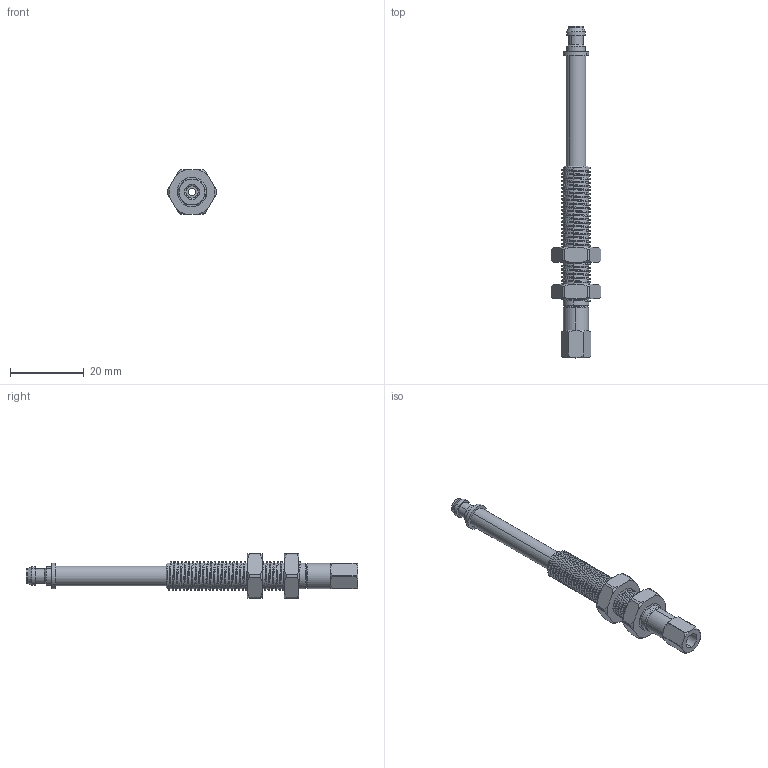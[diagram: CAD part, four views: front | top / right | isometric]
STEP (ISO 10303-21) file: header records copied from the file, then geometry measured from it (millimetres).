
FILE_DESCRIPTION (( 'STEP AP214' ), '1' );
FILE_NAME ('VFRT-30M5.STEP', '2019-11-22T01:10:11', ( '微软用户' ), ( '微软中国' ), 'SwSTEP 2.0', 'SolidWorks 2016', '' );
FILE_SCHEMA (( 'AUTOMOTIVE_DESIGN' ));
Length unit declared in the file: millimetre
Products named in the file (1): VFRT-30M5
Bounding box: 13.5 x 90 x 12 mm (x, y, z)
Volume: 3306.5 mm3; surface area: 6110.8 mm2
Topology: 6 solids, 6 shells, 219 faces, 577 edges, 376 vertices
Faces by surface type: cylinder 129, cone 49, plane 38, bspline 3
Entity records: 15902 total; most frequent: CARTESIAN_POINT 8426, ORIENTED_EDGE 1154, DIRECTION 956, EDGE_CURVE 577, AXIS2_PLACEMENT_3D 382, VERTEX_POINT 376, EDGE_LOOP 237, UNCERTAINTY_MEASURE_WITH_UNIT 226
